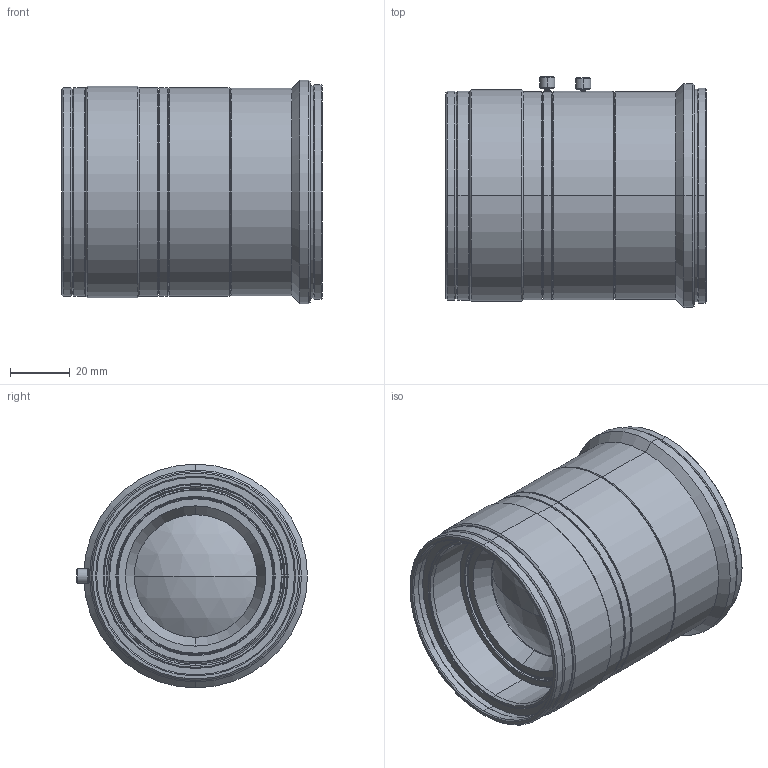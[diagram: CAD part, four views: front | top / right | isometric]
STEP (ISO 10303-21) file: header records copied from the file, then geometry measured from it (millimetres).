
FILE_DESCRIPTION (( 'STEP AP203' ), '1' );
FILE_NAME ('VS-L7528_M72-31.8.STEP', '2017-11-07T06:38:36', ( 'miura_vst' ), ( '' ), 'SwSTEP 2.0', 'SolidWorks 2017', '' );
FILE_SCHEMA (( 'CONFIG_CONTROL_DESIGN' ));
Length unit declared in the file: millimetre
Products named in the file (1): VS-L7528_M72-31.8
Bounding box: 87.2 x 77.4 x 75 mm (x, y, z)
Volume: 198518.7 mm3; surface area: 45017.5 mm2
Topology: 1 solids, 1 shells, 204 faces, 410 edges, 238 vertices
Faces by surface type: cone 104, cylinder 64, plane 30, sphere 4, torus 2
Entity records: 5417 total; most frequent: DIRECTION 1054, CARTESIAN_POINT 917, ORIENTED_EDGE 820, AXIS2_PLACEMENT_3D 443, EDGE_CURVE 410, VERTEX_POINT 238, CIRCLE 238, EDGE_LOOP 234
